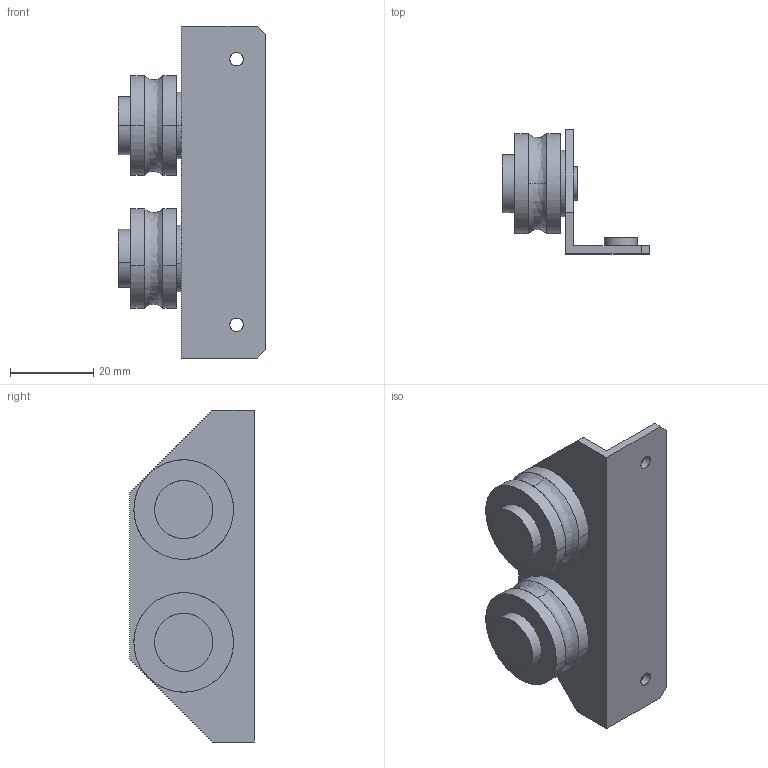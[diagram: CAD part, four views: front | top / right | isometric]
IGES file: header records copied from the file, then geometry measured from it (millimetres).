
Global section: file name: No Iges File Name specified; native system: AutoDesk Inventor R11.0; preprocessor: AutoDesk Inventor Iges Exporter R11.0; author: No Author specified; organization: No Organization specified; date: 20190511.110551; units: millimetre
Bounding box: 35.5 x 30 x 80 mm (x, y, z)
Surface area: 11640.2 mm2 (no closed solid volume)
Topology: 0 solids, 0 shells, 66 faces, 458 edges, 458 vertices
Faces by surface type: bspline 66
